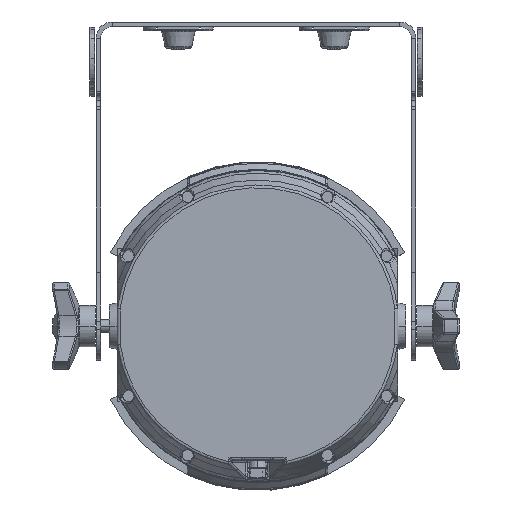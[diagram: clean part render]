
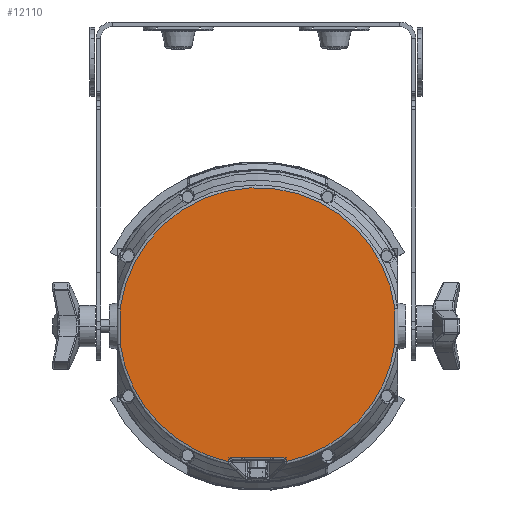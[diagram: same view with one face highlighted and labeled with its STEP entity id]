
A CAD part, front view. The second image highlights one B-rep face of the part: STEP entity #12110.
In plain terms, the highlighted planar face has unit normal (0, -1, 0).
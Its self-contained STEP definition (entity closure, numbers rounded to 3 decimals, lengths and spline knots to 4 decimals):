
#2558=CARTESIAN_POINT('',(3.4646,-0.8949,
0.4574));
#2637=DIRECTION('',(0.,0.,-1.));
#2638=VECTOR('',#2637,0.0945);
#2639=CARTESIAN_POINT('',(0.7214,-0.8949,
-3.3249));
#2640=LINE('',#2639,#2638);
#4695=DIRECTION('',(-1.,0.,0.));
#4696=VECTOR('',#4695,0.3266);
#4697=CARTESIAN_POINT('',(0.7214,-0.8949,
-3.3249));
#4698=LINE('',#4697,#4696);
#4699=DIRECTION('',(-1.,0.,0.));
#4700=VECTOR('',#4699,0.6697);
#4701=CARTESIAN_POINT('',(0.3349,-0.8949,
-3.3131));
#4702=LINE('',#4701,#4700);
#4703=CARTESIAN_POINT('',(-0.3349,-0.8949,
-3.3131));
#4704=CARTESIAN_POINT('',(-0.3417,-0.8949,
-3.3131));
#4705=CARTESIAN_POINT('',(-0.3553,-0.8949,
-3.314));
#4706=CARTESIAN_POINT('',(-0.3755,-0.8949,
-3.318));
#4707=CARTESIAN_POINT('',(-0.3885,-0.8949,
-3.3223));
#4708=CARTESIAN_POINT('',(-0.3948,-0.8949,
-3.3249));
#4710=CARTESIAN_POINT('',(0.,-0.8949,0.));
#4711=DIRECTION('',(0.,1.,0.));
#4712=DIRECTION('',(-0.206,0.,-0.978));
#4713=AXIS2_PLACEMENT_3D('',#4710,#4711,#4712);
#4715=CARTESIAN_POINT('',(0.,-0.8949,0.));
#4716=DIRECTION('',(0.,1.,0.));
#4717=DIRECTION('',(-0.448,0.,-0.894));
#4718=AXIS2_PLACEMENT_3D('',#4715,#4716,#4717);
#4720=DIRECTION('',(0.,0.,1.));
#4721=VECTOR('',#4720,0.9148);
#4722=CARTESIAN_POINT('',(-3.4646,-0.8949,
-0.4574));
#4723=LINE('',#4722,#4721);
#4724=CARTESIAN_POINT('',(0.,-0.8949,0.));
#4725=DIRECTION('',(0.,1.,0.));
#4726=DIRECTION('',(-0.991,0.,0.131));
#4727=AXIS2_PLACEMENT_3D('',#4724,#4725,#4726);
#4729=CARTESIAN_POINT('',(0.,-0.8949,0.));
#4730=DIRECTION('',(0.,1.,0.));
#4731=DIRECTION('',(0.448,0.,0.894));
#4732=AXIS2_PLACEMENT_3D('',#4729,#4730,#4731);
#4734=DIRECTION('',(0.,0.,-1.));
#4735=VECTOR('',#4734,0.9148);
#4736=CARTESIAN_POINT('',(3.4646,-0.8949,
0.4574));
#4737=LINE('',#4736,#4735);
#4738=CARTESIAN_POINT('',(0.,-0.8949,0.));
#4739=DIRECTION('',(0.,1.,0.));
#4740=DIRECTION('',(0.991,0.,-0.131));
#4741=AXIS2_PLACEMENT_3D('',#4738,#4739,#4740);
#4756=CARTESIAN_POINT('',(0.3349,-0.8949,
-3.3131));
#4757=CARTESIAN_POINT('',(0.3423,-0.8949,
-3.3132));
#4758=CARTESIAN_POINT('',(0.3566,-0.8949,
-3.3143));
#4759=CARTESIAN_POINT('',(0.3765,-0.8949,
-3.3183));
#4760=CARTESIAN_POINT('',(0.3889,-0.8949,
-3.3225));
#4761=CARTESIAN_POINT('',(0.3948,-0.8949,
-3.3249));
#4807=DIRECTION('',(1.,0.,0.));
#4808=VECTOR('',#4807,0.3266);
#4809=CARTESIAN_POINT('',(-0.7214,-0.8949,
-3.3249));
#4810=LINE('',#4809,#4808);
#4850=DIRECTION('',(0.,0.,1.));
#4851=VECTOR('',#4850,0.0945);
#4852=CARTESIAN_POINT('',(-0.7214,-0.8949,
-3.4194));
#4853=LINE('',#4852,#4851);
#6071=VERTEX_POINT('',#2558);
#6072=CARTESIAN_POINT('',(1.5642,-0.8949,
3.125));
#6073=VERTEX_POINT('',#6072);
#6074=CARTESIAN_POINT('',(-3.4646,-0.8949,
0.4574));
#6075=VERTEX_POINT('',#6074);
#6110=CARTESIAN_POINT('',(-3.4646,-0.8949,
-0.4574));
#6111=VERTEX_POINT('',#6110);
#6118=CARTESIAN_POINT('',(0.7214,-0.8949,
-3.3249));
#6119=CARTESIAN_POINT('',(0.3948,-0.8949,
-3.3249));
#6120=VERTEX_POINT('',#6118);
#6121=VERTEX_POINT('',#6119);
#6122=VERTEX_POINT('',#4756);
#6123=CARTESIAN_POINT('',(-0.3349,-0.8949,
-3.3131));
#6124=VERTEX_POINT('',#6123);
#6125=VERTEX_POINT('',#4708);
#6126=CARTESIAN_POINT('',(-0.7214,-0.8949,
-3.3249));
#6127=VERTEX_POINT('',#6126);
#6128=CARTESIAN_POINT('',(-0.7214,-0.8949,
-3.4194));
#6129=VERTEX_POINT('',#6128);
#6130=CARTESIAN_POINT('',(-1.5642,-0.8949,
-3.125));
#6131=VERTEX_POINT('',#6130);
#6132=CARTESIAN_POINT('',(3.4646,-0.8949,
-0.4574));
#6133=VERTEX_POINT('',#6132);
#6134=CARTESIAN_POINT('',(0.7214,-0.8949,
-3.4194));
#6135=VERTEX_POINT('',#6134);
#12082=CARTESIAN_POINT('',(0.,-0.8949,0.));
#12083=DIRECTION('',(0.,-1.,0.));
#12084=DIRECTION('',(-1.,0.,0.));
#12085=AXIS2_PLACEMENT_3D('',#12082,#12083,#12084);
#12086=PLANE('',#12085);
#12087=ORIENTED_EDGE('',*,*,#7929,.T.);
#12089=ORIENTED_EDGE('',*,*,#12088,.F.);
#12091=ORIENTED_EDGE('',*,*,#12090,.T.);
#12093=ORIENTED_EDGE('',*,*,#12092,.T.);
#12095=ORIENTED_EDGE('',*,*,#12094,.F.);
#12097=ORIENTED_EDGE('',*,*,#12096,.F.);
#12099=ORIENTED_EDGE('',*,*,#12098,.T.);
#12101=ORIENTED_EDGE('',*,*,#12100,.T.);
#12102=ORIENTED_EDGE('',*,*,#12066,.T.);
#12103=ORIENTED_EDGE('',*,*,#7699,.T.);
#12104=ORIENTED_EDGE('',*,*,#7697,.T.);
#12105=ORIENTED_EDGE('',*,*,#7725,.T.);
#12106=ORIENTED_EDGE('',*,*,#7756,.T.);
#12107=ORIENTED_EDGE('',*,*,#7856,.F.);
#12108=EDGE_LOOP('',(#12087,#12089,#12091,#12093,#12095,#12097,#12099,#12101,
#12102,#12103,#12104,#12105,#12106,#12107));
#12109=FACE_OUTER_BOUND('',#12108,.F.);
#12110=ADVANCED_FACE('',(#12109),#12086,.T.);
#4709=B_SPLINE_CURVE_WITH_KNOTS('',3,(#4703,#4704,#4705,#4706,#4707,#4708),
.UNSPECIFIED.,.F.,.F.,(4,1,1,4),(0.,0.3333,0.6667,1.),
.UNSPECIFIED.);
#4714=CIRCLE('',#4713,3.4946);
#4719=CIRCLE('',#4718,3.4946);
#4728=CIRCLE('',#4727,3.4946);
#4733=CIRCLE('',#4732,3.4946);
#4742=CIRCLE('',#4741,3.4946);
#4762=B_SPLINE_CURVE_WITH_KNOTS('',3,(#4756,#4757,#4758,#4759,#4760,#4761),
.UNSPECIFIED.,.F.,.F.,(4,1,1,4),(0.,0.3333,0.6667,1.),
.UNSPECIFIED.);
#7697=EDGE_CURVE('',#6073,#6071,#4733,.T.);
#7699=EDGE_CURVE('',#6075,#6073,#4728,.T.);
#7725=EDGE_CURVE('',#6071,#6133,#4737,.T.);
#7756=EDGE_CURVE('',#6133,#6135,#4742,.T.);
#7856=EDGE_CURVE('',#6120,#6135,#2640,.T.);
#7929=EDGE_CURVE('',#6120,#6121,#4698,.T.);
#12066=EDGE_CURVE('',#6111,#6075,#4723,.T.);
#12088=EDGE_CURVE('',#6122,#6121,#4762,.T.);
#12090=EDGE_CURVE('',#6122,#6124,#4702,.T.);
#12092=EDGE_CURVE('',#6124,#6125,#4709,.T.);
#12094=EDGE_CURVE('',#6127,#6125,#4810,.T.);
#12096=EDGE_CURVE('',#6129,#6127,#4853,.T.);
#12098=EDGE_CURVE('',#6129,#6131,#4714,.T.);
#12100=EDGE_CURVE('',#6131,#6111,#4719,.T.);
